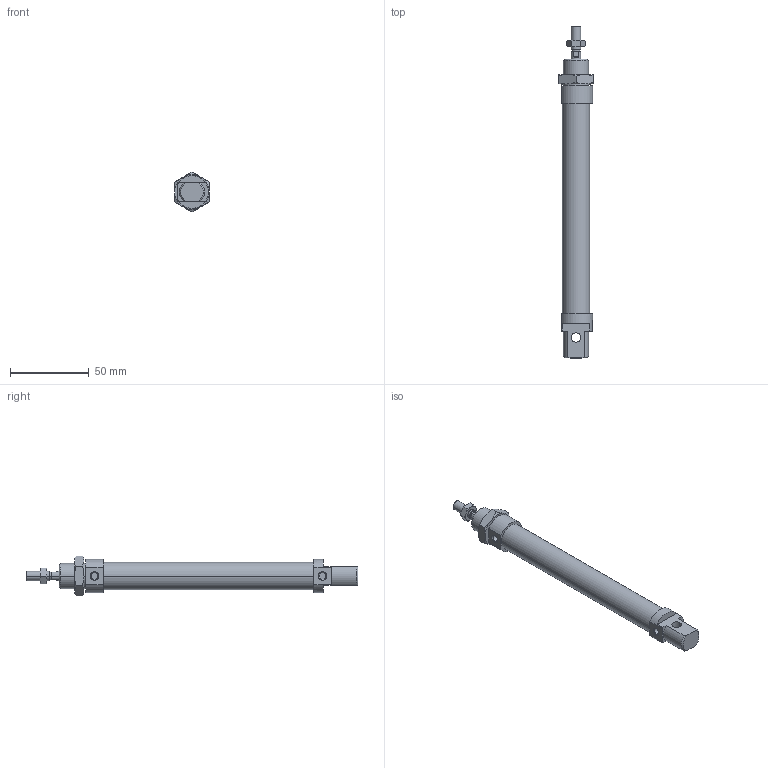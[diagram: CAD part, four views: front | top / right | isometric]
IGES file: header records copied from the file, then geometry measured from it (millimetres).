
Global section: file name: No Iges File Name specified; native system: Autodesk Inventor 2010; preprocessor: AutoDesk Inventor Iges Exporter R2010; author: rivolro1; date: 20090604.093224; units: millimetre
Bounding box: 22 x 211 x 25.4 mm (x, y, z)
Volume: 46096.1 mm3; surface area: 18220.3 mm2
Topology: 4 solids, 4 shells, 107 faces, 236 edges, 144 vertices
Faces by surface type: plane 39, cone 28, bspline 20, cylinder 14, revolution 6
